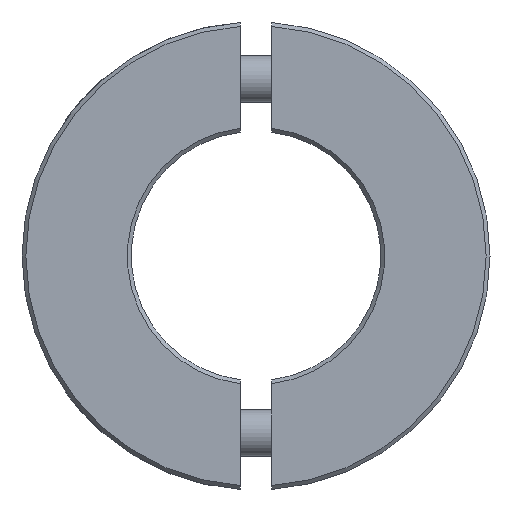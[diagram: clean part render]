
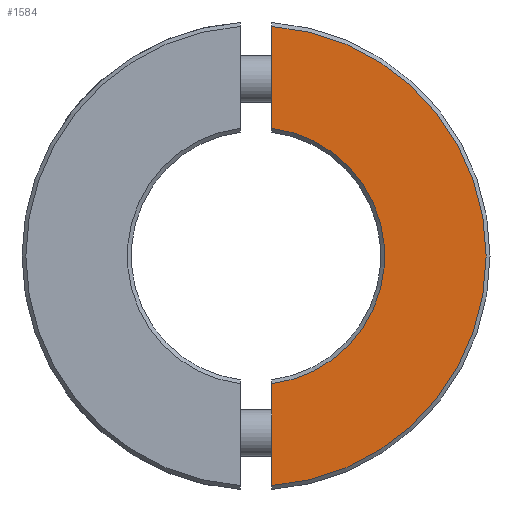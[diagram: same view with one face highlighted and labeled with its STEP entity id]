
A CAD part, left-side view. The second image highlights one B-rep face of the part: STEP entity #1584.
In plain terms, the highlighted planar face has unit normal (-1, 0, 0).
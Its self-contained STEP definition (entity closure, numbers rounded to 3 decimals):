
#26=PLANE('',#1668);
#106=LINE('',#2149,#180);
#107=LINE('',#2150,#181);
#180=VECTOR('',#1809,1000.);
#181=VECTOR('',#1810,1000.);
#260=ORIENTED_EDGE('',*,*,#551,.T.);
#261=ORIENTED_EDGE('',*,*,#552,.T.);
#262=ORIENTED_EDGE('',*,*,#548,.F.);
#263=ORIENTED_EDGE('',*,*,#553,.T.);
#548=EDGE_CURVE('',#694,#695,#796,.T.);
#551=EDGE_CURVE('',#696,#697,#797,.T.);
#552=EDGE_CURVE('',#697,#695,#106,.T.);
#553=EDGE_CURVE('',#694,#696,#107,.T.);
#694=VERTEX_POINT('',#2135);
#695=VERTEX_POINT('',#2136);
#696=VERTEX_POINT('',#2147);
#697=VERTEX_POINT('',#2148);
#796=CIRCLE('',#1667,29.5);
#797=CIRCLE('',#1669,16.5);
#850=EDGE_LOOP('',(#260,#261,#262,#263));
#948=FACE_BOUND('',#850,.T.);
#1584=ADVANCED_FACE('',(#948),#26,.T.);
#1667=AXIS2_PLACEMENT_3D('',#2134,#1803,#1804);
#1668=AXIS2_PLACEMENT_3D('',#2145,#1805,#1806);
#1669=AXIS2_PLACEMENT_3D('',#2146,#1807,#1808);
#1803=DIRECTION('',(1.,0.,0.));
#1804=DIRECTION('',(0.,0.,-1.));
#1805=DIRECTION('',(-1.,0.,0.));
#1806=DIRECTION('',(0.,0.,1.));
#1807=DIRECTION('',(1.,0.,0.));
#1808=DIRECTION('',(0.,0.,-1.));
#1809=DIRECTION('',(0.,0.,-1.));
#1810=DIRECTION('',(0.,0.,-1.));
#2134=CARTESIAN_POINT('',(-7.5,0.,0.));
#2135=CARTESIAN_POINT('',(-7.5,-2.,29.432));
#2136=CARTESIAN_POINT('',(-7.5,-2.,-29.432));
#2145=CARTESIAN_POINT('',(-7.5,29.5,0.));
#2146=CARTESIAN_POINT('',(-7.5,0.,0.));
#2147=CARTESIAN_POINT('',(-7.5,-2.,16.378));
#2148=CARTESIAN_POINT('',(-7.5,-2.,-16.378));
#2149=CARTESIAN_POINT('',(-7.5,-2.,0.));
#2150=CARTESIAN_POINT('',(-7.5,-2.,40.));
